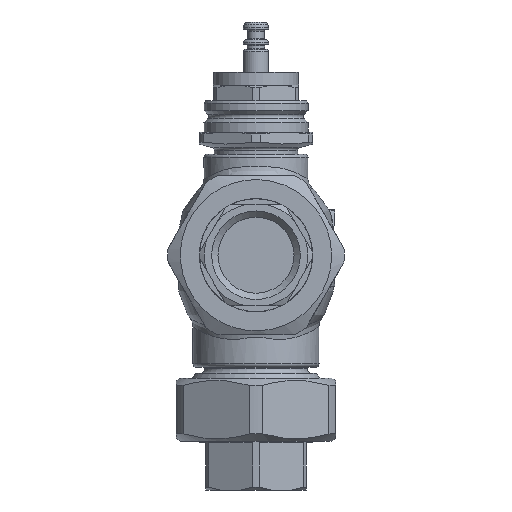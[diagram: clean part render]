
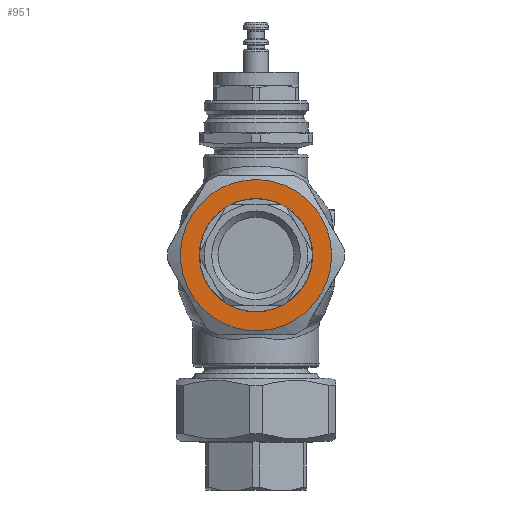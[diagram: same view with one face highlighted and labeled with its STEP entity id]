
A CAD part, left-side view. The second image highlights one B-rep face of the part: STEP entity #951.
In plain terms, the highlighted planar face has unit normal (-1, 0, 0).
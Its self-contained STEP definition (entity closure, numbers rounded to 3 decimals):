
#484=PLANE('',#4300);
#693=FACE_BOUND('',#1468,.T.);
#694=FACE_BOUND('',#1469,.T.);
#951=ADVANCED_FACE('',(#693,#694),#484,.T.);
#1468=EDGE_LOOP('',(#2353));
#1469=EDGE_LOOP('',(#2354));
#1830=CIRCLE('',#4298,18.);
#1831=CIRCLE('',#4299,24.);
#2353=ORIENTED_EDGE('',*,*,#3633,.T.);
#2354=ORIENTED_EDGE('',*,*,#3634,.T.);
#3200=VERTEX_POINT('',#6324);
#3201=VERTEX_POINT('',#6326);
#3633=EDGE_CURVE('',#3200,#3200,#1830,.T.);
#3634=EDGE_CURVE('',#3201,#3201,#1831,.T.);
#4298=AXIS2_PLACEMENT_3D('',#6323,#5046,#5047);
#4299=AXIS2_PLACEMENT_3D('',#6325,#5048,#5049);
#4300=AXIS2_PLACEMENT_3D('',#6327,#5050,#5051);
#5046=DIRECTION('',(1.,0.,0.));
#5047=DIRECTION('',(0.,1.,0.));
#5048=DIRECTION('',(-1.,0.,0.));
#5049=DIRECTION('',(0.,-1.,0.));
#5050=DIRECTION('',(-1.,0.,0.));
#5051=DIRECTION('',(0.,-1.,0.));
#6323=CARTESIAN_POINT('',(41.,0.,100.));
#6324=CARTESIAN_POINT('',(41.,18.,100.));
#6325=CARTESIAN_POINT('',(41.,0.,100.));
#6326=CARTESIAN_POINT('',(41.,-24.,100.));
#6327=CARTESIAN_POINT('',(41.,0.,100.));
